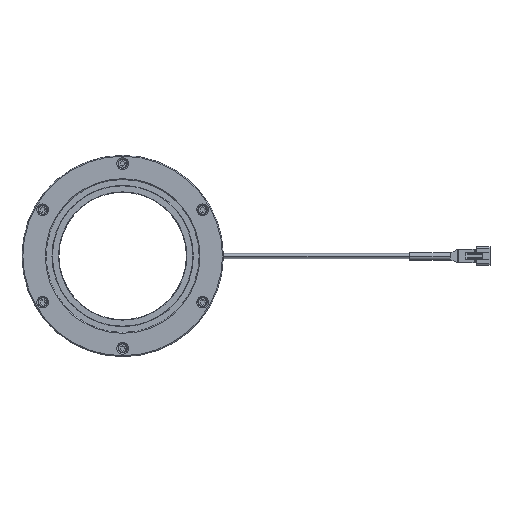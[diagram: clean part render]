
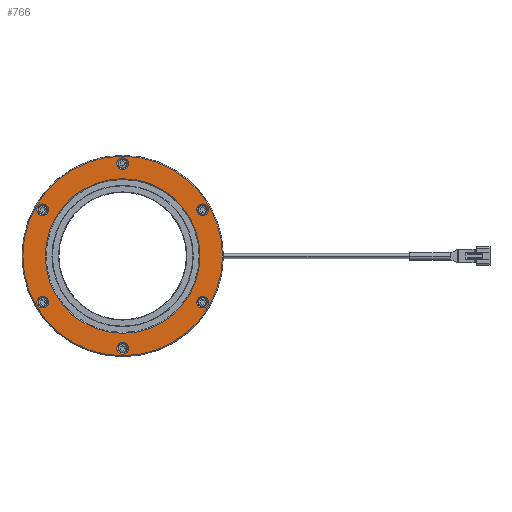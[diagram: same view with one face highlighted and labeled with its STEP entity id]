
A CAD part, top view. The second image highlights one B-rep face of the part: STEP entity #766.
In plain terms, the highlighted planar face has unit normal (0, 0, 1).
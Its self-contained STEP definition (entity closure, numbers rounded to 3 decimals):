
#766=ADVANCED_FACE('NONE',(#1695,#1696,#1697,#1698,#1699,#1700,#1701,#1702),#1703,.F.);
#1695=FACE_OUTER_BOUND('',#3025,.T.);
#1696=FACE_BOUND('',#3026,.T.);
#1697=FACE_BOUND('',#3027,.T.);
#1698=FACE_BOUND('',#3028,.T.);
#1699=FACE_BOUND('',#3029,.T.);
#1700=FACE_BOUND('',#3030,.T.);
#1701=FACE_BOUND('',#3031,.T.);
#1702=FACE_BOUND('',#3032,.T.);
#1703=PLANE('',#3033);
#3025=EDGE_LOOP('',(#4912,#4913));
#3026=EDGE_LOOP('',(#4914,#4915));
#3027=EDGE_LOOP('',(#4916,#4917));
#3028=EDGE_LOOP('',(#4918,#4919));
#3029=EDGE_LOOP('',(#4920,#4921));
#3030=EDGE_LOOP('',(#4922,#4923));
#3031=EDGE_LOOP('',(#4924,#4925));
#3032=EDGE_LOOP('',(#4926,#4927));
#3033=AXIS2_PLACEMENT_3D('',#4928,#4929,#4930);
#4912=ORIENTED_EDGE('',*,*,#7426,.T.);
#4913=ORIENTED_EDGE('',*,*,#7289,.T.);
#4914=ORIENTED_EDGE('',*,*,#7326,.T.);
#4915=ORIENTED_EDGE('',*,*,#7427,.T.);
#4916=ORIENTED_EDGE('',*,*,#7321,.T.);
#4917=ORIENTED_EDGE('',*,*,#7428,.T.);
#4918=ORIENTED_EDGE('',*,*,#7316,.T.);
#4919=ORIENTED_EDGE('',*,*,#7429,.T.);
#4920=ORIENTED_EDGE('',*,*,#7311,.T.);
#4921=ORIENTED_EDGE('',*,*,#7430,.T.);
#4922=ORIENTED_EDGE('',*,*,#7306,.T.);
#4923=ORIENTED_EDGE('',*,*,#7431,.T.);
#4924=ORIENTED_EDGE('',*,*,#7301,.T.);
#4925=ORIENTED_EDGE('',*,*,#7432,.T.);
#4926=ORIENTED_EDGE('',*,*,#7286,.T.);
#4927=ORIENTED_EDGE('',*,*,#7433,.T.);
#4928=CARTESIAN_POINT('',(60.0,0.0,6.0));
#4929=DIRECTION('',(0.0,0.0,-1.0));
#4930=DIRECTION('',(0.0,-1.0,0.0));
#7286=EDGE_CURVE('NONE',#8616,#8614,#8617,.T.);
#7289=EDGE_CURVE('NONE',#8620,#8621,#8622,.T.);
#7301=EDGE_CURVE('NONE',#8643,#8641,#8644,.T.);
#7306=EDGE_CURVE('NONE',#8652,#8650,#8653,.T.);
#7311=EDGE_CURVE('NONE',#8661,#8659,#8662,.T.);
#7316=EDGE_CURVE('NONE',#8670,#8668,#8671,.T.);
#7321=EDGE_CURVE('NONE',#8679,#8677,#8680,.T.);
#7326=EDGE_CURVE('NONE',#8688,#8686,#8689,.T.);
#7426=EDGE_CURVE('NONE',#8621,#8620,#8835,.T.);
#7427=EDGE_CURVE('NONE',#8686,#8688,#8836,.T.);
#7428=EDGE_CURVE('NONE',#8677,#8679,#8837,.T.);
#7429=EDGE_CURVE('NONE',#8668,#8670,#8838,.T.);
#7430=EDGE_CURVE('NONE',#8659,#8661,#8839,.T.);
#7431=EDGE_CURVE('NONE',#8650,#8652,#8840,.T.);
#7432=EDGE_CURVE('NONE',#8641,#8643,#8841,.T.);
#7433=EDGE_CURVE('NONE',#8614,#8616,#8842,.T.);
#8614=VERTEX_POINT('NONE',#10545);
#8616=VERTEX_POINT('NONE',#10548);
#8617=CIRCLE('',#10549,46.1);
#8620=VERTEX_POINT('NONE',#10553);
#8621=VERTEX_POINT('NONE',#10554);
#8622=CIRCLE('',#10555,59.5);
#8641=VERTEX_POINT('NONE',#10578);
#8643=VERTEX_POINT('NONE',#10581);
#8644=CIRCLE('',#10582,3.5);
#8650=VERTEX_POINT('NONE',#10589);
#8652=VERTEX_POINT('NONE',#10592);
#8653=CIRCLE('',#10593,3.5);
#8659=VERTEX_POINT('NONE',#10600);
#8661=VERTEX_POINT('NONE',#10603);
#8662=CIRCLE('',#10604,3.5);
#8668=VERTEX_POINT('NONE',#10611);
#8670=VERTEX_POINT('NONE',#10614);
#8671=CIRCLE('',#10615,3.5);
#8677=VERTEX_POINT('NONE',#10622);
#8679=VERTEX_POINT('NONE',#10625);
#8680=CIRCLE('',#10626,3.5);
#8686=VERTEX_POINT('NONE',#10633);
#8688=VERTEX_POINT('NONE',#10636);
#8689=CIRCLE('',#10637,3.5);
#8835=CIRCLE('',#10816,59.5);
#8836=CIRCLE('',#10817,3.5);
#8837=CIRCLE('',#10818,3.5);
#8838=CIRCLE('',#10819,3.5);
#8839=CIRCLE('',#10820,3.5);
#8840=CIRCLE('',#10821,3.5);
#8841=CIRCLE('',#10822,3.5);
#8842=CIRCLE('',#10823,46.1);
#10545=CARTESIAN_POINT('',(-46.1,0.,6.0));
#10548=CARTESIAN_POINT('',(46.1,0.0,6.0));
#10549=AXIS2_PLACEMENT_3D('',#13102,#13103,#13104);
#10553=CARTESIAN_POINT('',(59.5,0.,6.0));
#10554=CARTESIAN_POINT('',(-59.5,0.0,6.0));
#10555=AXIS2_PLACEMENT_3D('',#13106,#13107,#13108);
#10578=CARTESIAN_POINT('',(44.131,-27.5,6.0));
#10581=CARTESIAN_POINT('',(51.131,-27.5,6.0));
#10582=AXIS2_PLACEMENT_3D('',#13126,#13127,#13128);
#10589=CARTESIAN_POINT('',(44.131,27.5,6.0));
#10592=CARTESIAN_POINT('',(51.131,27.5,6.0));
#10593=AXIS2_PLACEMENT_3D('',#13134,#13135,#13136);
#10600=CARTESIAN_POINT('',(-3.5,55.0,6.0));
#10603=CARTESIAN_POINT('',(3.5,55.0,6.0));
#10604=AXIS2_PLACEMENT_3D('',#13142,#13143,#13144);
#10611=CARTESIAN_POINT('',(-51.131,27.5,6.0));
#10614=CARTESIAN_POINT('',(-44.131,27.5,6.0));
#10615=AXIS2_PLACEMENT_3D('',#13150,#13151,#13152);
#10622=CARTESIAN_POINT('',(-51.131,-27.5,6.0));
#10625=CARTESIAN_POINT('',(-44.131,-27.5,6.0));
#10626=AXIS2_PLACEMENT_3D('',#13158,#13159,#13160);
#10633=CARTESIAN_POINT('',(-3.5,-55.0,6.0));
#10636=CARTESIAN_POINT('',(3.5,-55.0,6.0));
#10637=AXIS2_PLACEMENT_3D('',#13166,#13167,#13168);
#10816=AXIS2_PLACEMENT_3D('',#13322,#13323,#13324);
#10817=AXIS2_PLACEMENT_3D('',#13325,#13326,#13327);
#10818=AXIS2_PLACEMENT_3D('',#13328,#13329,#13330);
#10819=AXIS2_PLACEMENT_3D('',#13331,#13332,#13333);
#10820=AXIS2_PLACEMENT_3D('',#13334,#13335,#13336);
#10821=AXIS2_PLACEMENT_3D('',#13337,#13338,#13339);
#10822=AXIS2_PLACEMENT_3D('',#13340,#13341,#13342);
#10823=AXIS2_PLACEMENT_3D('',#13343,#13344,#13345);
#13102=CARTESIAN_POINT('',(0.0,0.0,6.0));
#13103=DIRECTION('',(0.0,0.0,-1.0));
#13104=DIRECTION('',(-1.0,0.0,0.0));
#13106=CARTESIAN_POINT('',(0.0,0.0,6.0));
#13107=DIRECTION('',(0.0,0.0,1.0));
#13108=DIRECTION('',(-1.0,0.0,0.0));
#13126=CARTESIAN_POINT('',(47.631,-27.5,6.0));
#13127=DIRECTION('',(0.0,0.0,-1.0));
#13128=DIRECTION('',(-1.0,0.0,0.0));
#13134=CARTESIAN_POINT('',(47.631,27.5,6.0));
#13135=DIRECTION('',(0.0,0.0,-1.0));
#13136=DIRECTION('',(-1.0,0.0,0.0));
#13142=CARTESIAN_POINT('',(0.0,55.0,6.0));
#13143=DIRECTION('',(0.0,0.0,-1.0));
#13144=DIRECTION('',(-1.0,0.0,0.0));
#13150=CARTESIAN_POINT('',(-47.631,27.5,6.0));
#13151=DIRECTION('',(0.0,0.0,-1.0));
#13152=DIRECTION('',(-1.0,0.0,0.0));
#13158=CARTESIAN_POINT('',(-47.631,-27.5,6.0));
#13159=DIRECTION('',(0.0,0.0,-1.0));
#13160=DIRECTION('',(-1.0,0.0,0.0));
#13166=CARTESIAN_POINT('',(0.,-55.0,6.0));
#13167=DIRECTION('',(0.0,0.0,-1.0));
#13168=DIRECTION('',(-1.0,0.0,0.0));
#13322=CARTESIAN_POINT('',(0.0,0.0,6.0));
#13323=DIRECTION('',(0.0,0.0,1.0));
#13324=DIRECTION('',(-1.0,0.0,0.0));
#13325=CARTESIAN_POINT('',(0.,-55.0,6.0));
#13326=DIRECTION('',(0.0,0.0,-1.0));
#13327=DIRECTION('',(-1.0,0.0,0.0));
#13328=CARTESIAN_POINT('',(-47.631,-27.5,6.0));
#13329=DIRECTION('',(0.0,0.0,-1.0));
#13330=DIRECTION('',(-1.0,0.0,0.0));
#13331=CARTESIAN_POINT('',(-47.631,27.5,6.0));
#13332=DIRECTION('',(0.0,0.0,-1.0));
#13333=DIRECTION('',(-1.0,0.0,0.0));
#13334=CARTESIAN_POINT('',(0.0,55.0,6.0));
#13335=DIRECTION('',(0.0,0.0,-1.0));
#13336=DIRECTION('',(-1.0,0.0,0.0));
#13337=CARTESIAN_POINT('',(47.631,27.5,6.0));
#13338=DIRECTION('',(0.0,0.0,-1.0));
#13339=DIRECTION('',(-1.0,0.0,0.0));
#13340=CARTESIAN_POINT('',(47.631,-27.5,6.0));
#13341=DIRECTION('',(0.0,0.0,-1.0));
#13342=DIRECTION('',(-1.0,0.0,0.0));
#13343=CARTESIAN_POINT('',(0.0,0.0,6.0));
#13344=DIRECTION('',(0.0,0.0,-1.0));
#13345=DIRECTION('',(-1.0,0.0,0.0));
